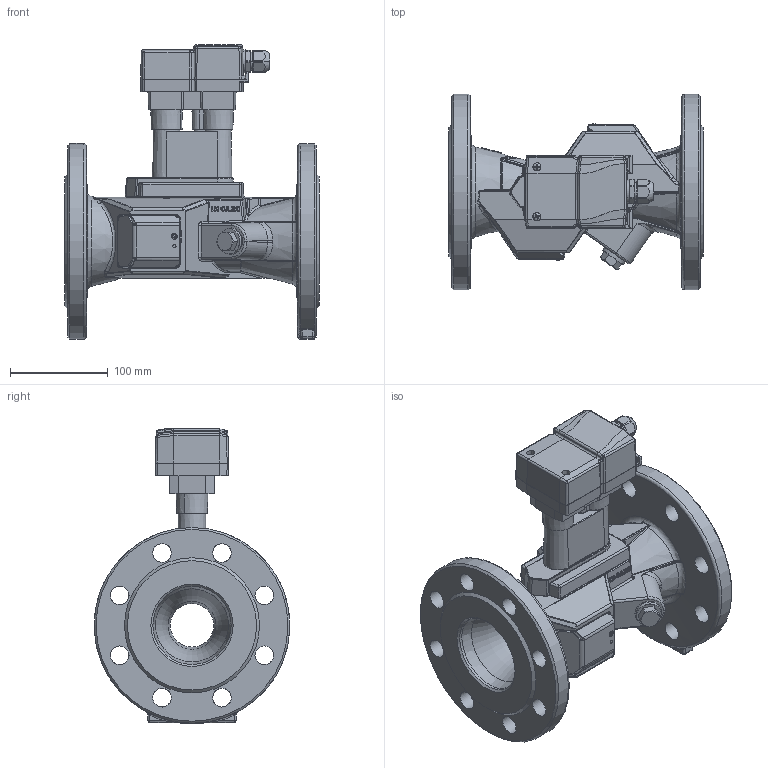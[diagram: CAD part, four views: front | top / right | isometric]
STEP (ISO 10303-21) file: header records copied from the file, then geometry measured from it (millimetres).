
FILE_DESCRIPTION(/* description */ (''),/* implementation_level */ '2;1');
FILE_NAME(/* name */ 'Durchflusssensor PN16 DN80 Dummy.stp',/* time_stamp */ '2019-07-29T13:42:03+02:00',/* author */ (''),/* organization */ ('BELIMO Automation AG'),/* preprocessor_version */ 'ST-DEVELOPER v16',/* originating_system */ 'SIEMENS PLM Software NX 11.0',/* authorisation */ '');
FILE_SCHEMA (('AUTOMOTIVE_DESIGN { 1 0 10303 214 3 1 1 1 }'));
Products named in the file (2): w3-81k5nxv000_01_SHELL; 6101705nxv000_01
Assembly tree (1 placements, depth 2):
  6101705nxv000_01
    w3-81k5nxv000_01_SHELL
Bounding box: 260 x 200 x 300.8 mm (x, y, z)
Volume: 2755147.9 mm3; surface area: 341295.9 mm2
Topology: 1 solids, 7 shells, 1750 faces, 4494 edges, 2737 vertices
Faces by surface type: plane 621, cylinder 438, bspline 377, extrusion 122, cone 76, sphere 62, torus 54
Full cylindrical faces by diameter (mm): 3 x2, 3.5 x4, 19.1 x16, 21.2 x1, 26 x1, 27.2 x1, 27.5 x1, 44.5 x1, 80 x2, 200 x1
Entity records: 83844 total; most frequent: CARTESIAN_POINT 34735, ORIENTED_EDGE 8640, DIRECTION 6962, EDGE_CURVE 4320, VERTEX_POINT 2709, AXIS2_PLACEMENT_3D 2469, VECTOR 2024, EDGE_LOOP 1925
